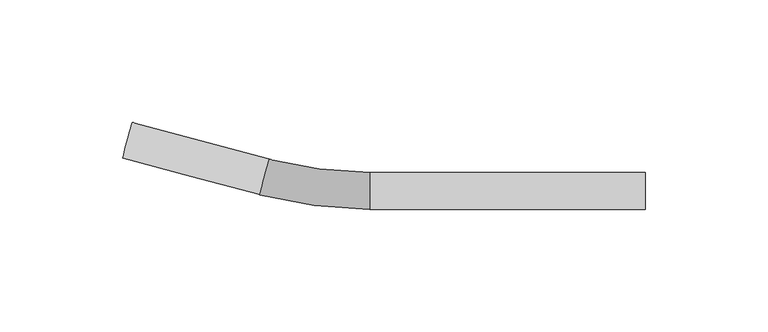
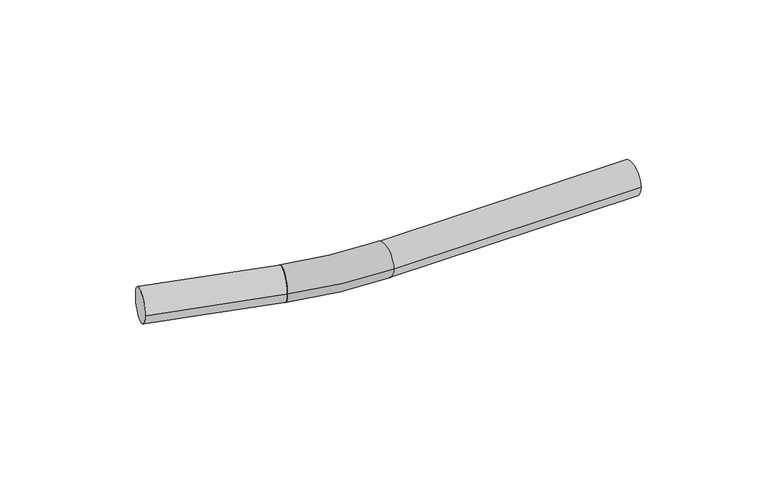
"""IFC4 building model written with IfcOpenShell, lengths in millimetres: pipe fitting geometry, VALTEC_VTi.955.I_Отвод безраструбный_нержавеющая : VTi.955.I."""

from ifc_helpers import new_model, si_unit, point, frame, origin, origin_2d, place, context, project, spatial, circle_curve, ellipse_curve, trimmed, segment, composite_curve, outline, extrude, source, transform, mapped, element, save
from ifc_brep_helpers import plane_surface, revolved_surface, advanced_brep


def pipe_fitting_4891fb00(model_context):
    return source(origin(), model_context, "Body", "SolidModel", [
        advanced_brep(
        [(21.6, -7.5, 0.0), (21.6, 7.5, 0.0), (-23.3051043, -1.5881309, 0.0), (-19.4228186, 12.9007565, 0.0)],
        [
            (0, 1, circle_curve(frame((21.6, 0.0, 0.0), z_axis=(1.0, 0.0, 0.0), x_axis=(0.0, 1.0, 0.0)), 7.5)),
            (1, 0, circle_curve(frame((21.6, 0.0, 0.0), z_axis=(1.0, 0.0, 0.0), x_axis=(0.0, 1.0, 0.0)), 7.5)),
            (2, 3, circle_curve(frame((-21.3639615, 5.6563128, 0.0), z_axis=(-0.9659258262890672, 0.2588190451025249, 0.0), x_axis=(0.2588190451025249, 0.9659258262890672, 0.0)), 7.5)),
            (3, 2, circle_curve(frame((-21.3639615, 5.6563128, 0.0), z_axis=(-0.9659258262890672, 0.2588190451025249, 0.0), x_axis=(0.2588190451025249, 0.9659258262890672, 0.0)), 7.5)),
            (2, 0, circle_curve(frame((21.6, 166.0, 0.0), z_axis=(0.0, 0.0, 1.0), x_axis=(0.0, -1.0, 0.0)), 173.5)),
            (1, 3, circle_curve(frame((21.6, 166.0, 0.0), z_axis=(0.0, 0.0, -1.0), x_axis=(0.0, -1.0, 0.0)), 158.5)),
        ],
        [
            plane_surface(frame((21.6, 0.0, 0.0), z_axis=(1.0, 0.0, 0.0), x_axis=(0.0, 0.0, 1.0))),
            plane_surface(frame((-21.3639615, 5.6563128, 0.0), z_axis=(-0.9659258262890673, 0.2588190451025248, 0.0), x_axis=(0.0, 0.0, 1.0))),
            revolved_surface(trimmed(ellipse_curve(frame((21.6, 0.0, 0.0), z_axis=(-1.0, 0.0, 0.0), x_axis=(0.0, 1.0, 0.0)), 7.5, 7.5), [point((21.6, -7.5, 0.0))], [point((21.6, 7.5, 0.0))], True, "CARTESIAN"), (21.6, 166.0, 0.0), (0.0, 0.0, 1.0)),
            revolved_surface(trimmed(ellipse_curve(frame((21.6, 0.0, 0.0), z_axis=(-1.0, 0.0, 0.0), x_axis=(0.0, 1.0, 0.0)), 7.5, 7.5), [point((21.6, 7.5, 0.0))], [point((21.6, -7.5, 0.0))], True, "CARTESIAN"), (21.6, 166.0, 0.0), (0.0, 0.0, 1.0)),
        ],
        [
            (0, [[1, 2]]),
            (1, [[3, 4]]),
            (2, [[-3, 5, -2, 6]]),
            (3, [[-4, -6, -1, -5]]),
        ],
    ),
        extrude(outline(composite_curve([segment(trimmed(circle_curve(origin_2d(), 7.5), [point((0.0, 7.5))], [point((0.0, -7.5))], False, "CARTESIAN"), True, "CONTINUOUS"), segment(trimmed(circle_curve(origin_2d(), 7.5), [point((0.0, -7.5))], [point((0.0, 7.5))], False, "CARTESIAN"), True, "CONTINUOUS")], self_intersect=False)), frame((-21.3469608, 5.7199009, 0.0), z_axis=(-0.9659258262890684, 0.25881904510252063, 0.0), x_axis=(0.0, 0.0, 1.0)), (0.0, 0.0, 1.0), 57.9),
        extrude(outline(composite_curve([segment(trimmed(circle_curve(origin_2d(), 7.5), [point((7.5, 0.0))], [point((-7.5, 0.0))], False, "CARTESIAN"), True, "CONTINUOUS"), segment(trimmed(circle_curve(origin_2d(), 7.5), [point((-7.5, 0.0))], [point((7.5, 0.0))], False, "CARTESIAN"), True, "CONTINUOUS")], self_intersect=False)), frame((21.6, 0.0, 0.0), z_axis=(1.0, 0.0, 0.0), x_axis=(0.0, 1.0, 0.0)), (0.0, 0.0, 1.0), 112.4),
    ])


if __name__ == "__main__":
    model = new_model("IFC4")
    model_context = context("Model", 3, world=origin())
    ifc_project = project(units=[si_unit("LENGTHUNIT", "METRE", prefix="MILLI")], contexts=[model_context])
    site = spatial("IfcSite", under=ifc_project)
    building = spatial("IfcBuilding", under=site)
    placement = place(None, origin())
    pipe_fitting_shape = pipe_fitting_4891fb00(model_context)
    element("IfcPipeFitting", 1, ObjectType="VALTEC_VTi.955.I_Отвод безраструбный_нержавеющая : VTi.955.I", at=placement, inside=building, context=model_context, shape_type="MappedRepresentation", body=[
        mapped(pipe_fitting_shape, transform((0.0, 0.0, 0.0), x_axis=(1.0, 0.0, 0.0), y_axis=(0.0, 1.0, 0.0), z_axis=(0.0, 0.0, 1.0))),
    ])
    save(model, "model.ifc")
